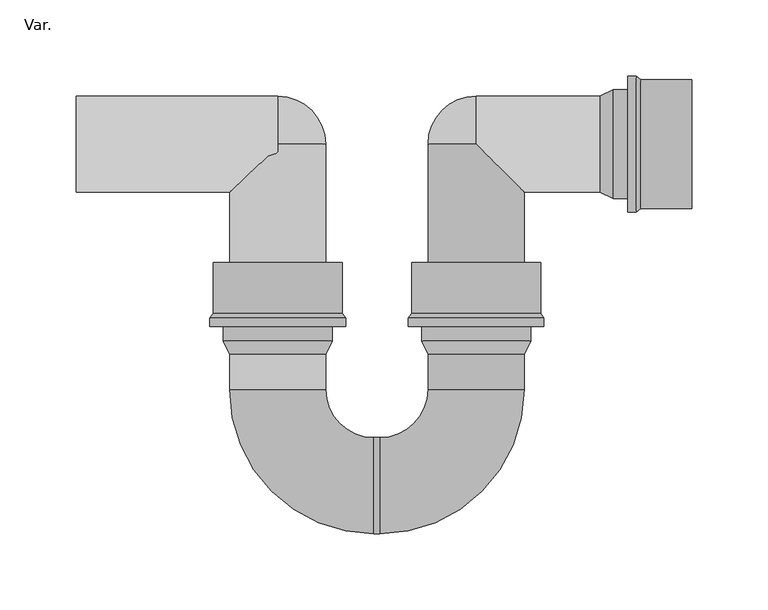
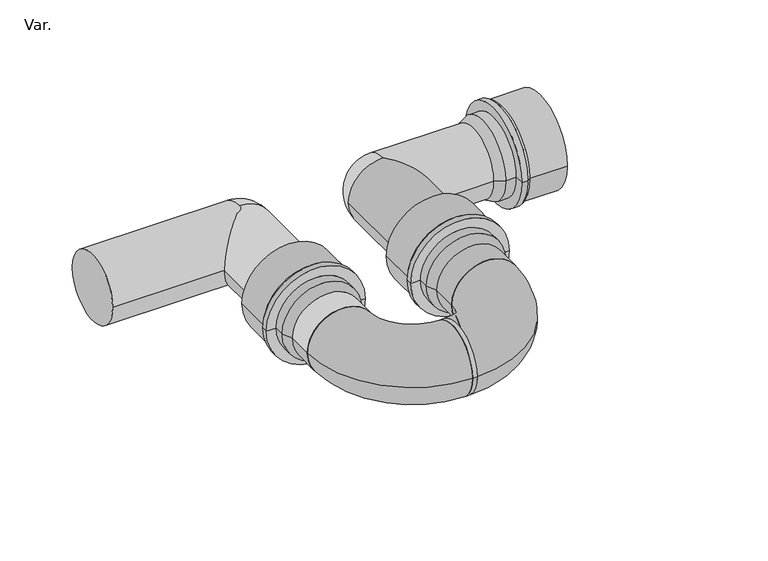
"""IFC4 building model written with IfcOpenShell, lengths in millimetres: pipe fitting geometry, PIF_HDPE u trap_Akatherm : Var.."""

from ifc_helpers import new_model, si_unit, point, frame, frame_2d, origin, origin_2d, place, context, project, spatial, polyline, circle_curve, ellipse_curve, trimmed, segment, composite_curve, outline, extrude, source, transform, mapped, element, save
from ifc_brep_helpers import plane_surface, cylinder_surface, revolved_surface, advanced_brep


def var_a00c3a62(model_context):
    return source(origin(), model_context, "Body", "SolidModel", [
        extrude(outline(composite_curve([segment(trimmed(circle_curve(frame_2d((-224.0, 0.0)), 31.5), [point((-255.5, 0.0))], [point((-192.5, 0.0))], False, "CARTESIAN"), True, "CONTINUOUS"), segment(trimmed(circle_curve(frame_2d((-224.0, 0.0)), 31.5), [point((-192.5, 0.0))], [point((-255.5, 0.0))], False, "CARTESIAN"), True, "CONTINUOUS")], self_intersect=False)), frame((-2.0, 0.0, 0.0), z_axis=(1.0, 0.0, 0.0), x_axis=(0.0, 1.0, 0.0)), (0.0, 0.0, 1.0), 4.0),
        extrude(outline(composite_curve([segment(trimmed(circle_curve(origin_2d(), 31.5), [point((31.5, 0.0))], [point((-31.5, 0.0))], False, "CARTESIAN"), True, "CONTINUOUS"), segment(trimmed(circle_curve(origin_2d(), 31.5), [point((-31.5, 0.0))], [point((31.5, 0.0))], False, "CARTESIAN"), True, "CONTINUOUS")], self_intersect=False)), frame((-197.0, 0.0, 0.0), z_axis=(1.0, 0.0, 0.0), x_axis=(0.0, 1.0, 0.0)), (0.0, 0.0, 1.0), 132.0),
        advanced_brep(
        [(-33.5, -161.0, 0.0), (-96.5, -161.0, 0.0), (-65.0, 0.0, -31.5), (-96.5, 0.0, 0.0), (-65.0, 0.0, 31.5), (-33.5, -138.0, 0.0), (-96.5, -138.0, 0.0), (-33.5, -77.7, 0.0), (-33.5, 0.0, 0.0), (-96.5, -77.7, 0.0), (-100.75, -129.0, 0.0), (-29.25, -129.0, 0.0), (-100.75, -119.7, 0.0), (-29.25, -119.7, 0.0), (-109.5, -119.7, 0.0), (-20.5, -119.7, 0.0), (-109.5, -114.1, 0.0), (-20.5, -114.1, 0.0), (-107.25, -111.0, 0.0), (-22.75, -111.0, 0.0), (-107.25, -77.7, 0.0), (-22.75, -77.7, 0.0)],
        [
            (0, 1, circle_curve(frame((-65.0, -161.0, 0.0), z_axis=(0.0, -1.0, 0.0), x_axis=(-1.0, 0.0, 0.0)), 31.5)),
            (1, 0, circle_curve(frame((-65.0, -161.0, 0.0), z_axis=(0.0, -1.0, 0.0), x_axis=(-1.0, 0.0, 0.0)), 31.5)),
            (2, 3, circle_curve(frame((-65.0, 0.0, 0.0), z_axis=(0.0, 1.0, 0.0), x_axis=(-1.0, 0.0, 0.0)), 31.5)),
            (3, 4, circle_curve(frame((-65.0, 0.0, 0.0), z_axis=(0.0, 1.0, 0.0), x_axis=(-1.0, 0.0, 0.0)), 31.5)),
            (4, 2),
            (0, 5),
            (5, 6, circle_curve(frame((-65.0, -138.0, 0.0), z_axis=(0.0, -1.0, 0.0), x_axis=(-1.0, 0.0, 0.0)), 31.5)),
            (6, 1),
            (7, 8),
            (8, 4, circle_curve(frame((-65.0, 0.0, 0.0), z_axis=(0.0, -1.0, 0.0), x_axis=(-1.0, 0.0, 0.0)), 31.5)),
            (3, 9),
            (9, 7, circle_curve(frame((-65.0, -77.7, 0.0), z_axis=(0.0, 1.0, 0.0), x_axis=(-1.0, 0.0, 0.0)), 31.5)),
            (6, 5, circle_curve(frame((-65.0, -138.0, 0.0), z_axis=(0.0, -1.0, 0.0), x_axis=(-1.0, 0.0, 0.0)), 31.5)),
            (7, 9, circle_curve(frame((-65.0, -77.7, 0.0), z_axis=(0.0, 1.0, 0.0), x_axis=(-1.0, 0.0, 0.0)), 31.5)),
            (2, 8, circle_curve(frame((-65.0, 0.0, 0.0), z_axis=(0.0, -1.0, 0.0), x_axis=(-1.0, 0.0, 0.0)), 31.5)),
            (10, 11, circle_curve(frame((-65.0, -129.0, 0.0), z_axis=(0.0, -1.0, 0.0), x_axis=(1.0, 0.0, 0.0)), 35.75)),
            (11, 5),
            (6, 10),
            (11, 10, circle_curve(frame((-65.0, -129.0, 0.0), z_axis=(0.0, -1.0, 0.0), x_axis=(1.0, 0.0, 0.0)), 35.75)),
            (10, 12),
            (12, 13, circle_curve(frame((-65.0, -119.7, 0.0), z_axis=(0.0, -1.0, 0.0), x_axis=(1.0, 0.0, 0.0)), 35.75)),
            (13, 11),
            (13, 12, circle_curve(frame((-65.0, -119.7, 0.0), z_axis=(0.0, -1.0, 0.0), x_axis=(1.0, 0.0, 0.0)), 35.75)),
            (12, 14),
            (14, 15, circle_curve(frame((-65.0, -119.7, 0.0), z_axis=(0.0, -1.0, 0.0), x_axis=(1.0, 0.0, 0.0)), 44.5)),
            (15, 13),
            (15, 14, circle_curve(frame((-65.0, -119.7, 0.0), z_axis=(0.0, -1.0, 0.0), x_axis=(1.0, 0.0, 0.0)), 44.5)),
            (14, 16),
            (16, 17, circle_curve(frame((-65.0, -114.1, 0.0), z_axis=(0.0, -1.0, 0.0), x_axis=(1.0, 0.0, 0.0)), 44.5)),
            (17, 15),
            (17, 16, circle_curve(frame((-65.0, -114.1, 0.0), z_axis=(0.0, -1.0, 0.0), x_axis=(1.0, 0.0, 0.0)), 44.5)),
            (16, 18),
            (18, 19, circle_curve(frame((-65.0, -111.0, 0.0), z_axis=(0.0, -1.0, 0.0), x_axis=(1.0, 0.0, 0.0)), 42.25)),
            (19, 17),
            (19, 18, circle_curve(frame((-65.0, -111.0, 0.0), z_axis=(0.0, -1.0, 0.0), x_axis=(1.0, 0.0, 0.0)), 42.25)),
            (18, 20),
            (20, 21, circle_curve(frame((-65.0, -77.7, 0.0), z_axis=(0.0, -1.0, 0.0), x_axis=(1.0, 0.0, 0.0)), 42.25)),
            (21, 19),
            (21, 20, circle_curve(frame((-65.0, -77.7, 0.0), z_axis=(0.0, -1.0, 0.0), x_axis=(1.0, 0.0, 0.0)), 42.25)),
            (20, 9),
            (7, 21),
            (4, 2, circle_curve(frame((-65.0, 0.0, 0.0), z_axis=(-1.0, 0.0, 0.0), x_axis=(0.0, 0.0, 1.0)), 31.5)),
        ],
        [
            plane_surface(frame((-65.0, -161.0, 0.0), z_axis=(0.0, -1.0, 0.0), x_axis=(0.0, 0.0, 1.0))),
            plane_surface(frame((-65.0, 0.0, 0.0), z_axis=(0.0, 1.0, 0.0), x_axis=(0.0, 0.0, 1.0))),
            cylinder_surface(frame((-65.0, -161.0, 0.0), z_axis=(0.0, -1.0, 0.0), x_axis=(-1.0, 0.0, 0.0)), 31.5),
            revolved_surface(polyline([(-33.5, -138.0, 0.0), (-29.25, -129.0, 0.0)]), (-65.0, -92.7, 0.0), (0.0, 1.0, 0.0)),
            cylinder_surface(frame((-65.0, -92.7, 0.0), z_axis=(0.0, 1.0, 0.0), x_axis=(1.0, 0.0, 0.0)), 35.75),
            plane_surface(frame((-65.0, -119.7, 0.0), z_axis=(0.0, -1.0, 0.0), x_axis=(1.0, 0.0, 0.0))),
            cylinder_surface(frame((-65.0, -92.7, 0.0), z_axis=(0.0, 1.0, 0.0), x_axis=(1.0, 0.0, 0.0)), 44.5),
            revolved_surface(polyline([(-20.5, -114.1, 0.0), (-22.75, -111.0, 0.0)]), (-65.0, -92.7, 0.0), (0.0, 1.0, 0.0)),
            cylinder_surface(frame((-65.0, -92.7, 0.0), z_axis=(0.0, 1.0, 0.0), x_axis=(1.0, 0.0, 0.0)), 42.25),
            plane_surface(frame((-65.0, -77.7, 0.0), z_axis=(0.0, 1.0, 0.0), x_axis=(1.0, 0.0, 0.0))),
            plane_surface(frame((-65.0, 0.0, -108.5), z_axis=(-1.0, 0.0, 0.0), x_axis=(0.0, 1.0, 0.0))),
            revolved_surface(trimmed(ellipse_curve(frame((-65.0, 0.0, 0.0), z_axis=(1.0, 0.0, 0.0), x_axis=(0.0, 0.0, 1.0)), 31.5, 31.5), [point((-65.0, 0.0, -31.5))], [point((-65.0, 0.0, 31.5))], True, "CARTESIAN"), (-65.0, 0.0, -108.5), (0.0, 0.0, 1.0)),
        ],
        [
            (0, [[1, 2]]),
            (1, [[3, 4, 5]]),
            (2, [[-1, 6, 7, 8]]),
            (2, [[9, 10, -4, 11, 12]]),
            (2, [[-2, -8, 13, -6]]),
            (2, [[-9, 14, -11, -3, 15]]),
            (3, [[16, 17, -13, 18]]),
            (3, [[-17, 19, -18, -7]]),
            (4, [[-16, 20, 21, 22]]),
            (4, [[-19, -22, 23, -20]]),
            (5, [[-21, 24, 25, 26]]),
            (5, [[-23, -26, 27, -24]]),
            (6, [[-25, 28, 29, 30]]),
            (6, [[-27, -30, 31, -28]]),
            (7, [[-29, 32, 33, 34]]),
            (7, [[-31, -34, 35, -32]]),
            (8, [[-33, 36, 37, 38]]),
            (8, [[-35, -38, 39, -36]]),
            (9, [[-37, 40, -14, 41]]),
            (9, [[-39, -41, -12, -40]]),
            (10, [[42, -5]]),
            (11, [[-42, -10, -15]]),
        ],
    ),
        advanced_brep(
        [(33.5, -161.0, 0.0), (96.5, -161.0, 0.0), (96.5, -138.0, 0.0), (33.5, -138.0, 0.0), (33.5, 0.0, 0.0), (33.5, -77.7, 0.0), (96.5, -77.7, 0.0), (96.5, -31.5, 0.0), (65.0, 0.0, 31.5), (65.0, 0.0, -31.5), (29.25, -129.0, 0.0), (100.75, -129.0, 0.0), (29.25, -119.7, 0.0), (100.75, -119.7, 0.0), (20.5, -119.7, 0.0), (109.5, -119.7, 0.0), (20.5, -114.1, 0.0), (109.5, -114.1, 0.0), (22.75, -111.0, 0.0), (107.25, -111.0, 0.0), (22.75, -77.7, 0.0), (107.25, -77.7, 0.0), (146.0, -31.5, 0.0), (146.0, 31.5, 0.0), (65.0, 31.5, 0.0), (206.3, -42.25, 0.0), (206.3, 42.25, 0.0), (206.3, 0.0, 0.0), (173.0, -42.25, 0.0), (173.0, 42.25, 0.0), (169.9, -44.5, 0.0), (169.9, 44.5, 0.0), (164.3, -44.5, 0.0), (164.3, 44.5, 0.0), (164.3, -35.75, 0.0), (164.3, 35.75, 0.0), (155.0, -35.75, 0.0), (155.0, 35.75, 0.0)],
        [
            (0, 1, circle_curve(frame((65.0, -161.0, 0.0), z_axis=(0.0, -1.0, 0.0), x_axis=(1.0, 0.0, 0.0)), 31.5)),
            (1, 0, circle_curve(frame((65.0, -161.0, 0.0), z_axis=(0.0, -1.0, 0.0), x_axis=(1.0, 0.0, 0.0)), 31.5)),
            (1, 2),
            (2, 3, circle_curve(frame((65.0, -138.0, 0.0), z_axis=(0.0, -1.0, 0.0), x_axis=(1.0, 0.0, 0.0)), 31.5)),
            (3, 0),
            (4, 5),
            (5, 6, circle_curve(frame((65.0, -77.7, 0.0), z_axis=(0.0, 1.0, 0.0), x_axis=(1.0, 0.0, 0.0)), 31.5)),
            (6, 7),
            (7, 8, ellipse_curve(frame((65.0, 0.0, 0.0), z_axis=(-0.7071067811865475, -0.7071067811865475, 0.0), x_axis=(-0.7071067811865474, 0.7071067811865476, 0.0)), 44.5477272, 31.5)),
            (8, 4, circle_curve(frame((65.0, 0.0, 0.0), z_axis=(0.0, -1.0, 0.0), x_axis=(1.0, 0.0, 0.0)), 31.5)),
            (3, 2, circle_curve(frame((65.0, -138.0, 0.0), z_axis=(0.0, -1.0, 0.0), x_axis=(1.0, 0.0, 0.0)), 31.5)),
            (4, 9, circle_curve(frame((65.0, 0.0, 0.0), z_axis=(0.0, -1.0, 0.0), x_axis=(1.0, 0.0, 0.0)), 31.5)),
            (9, 7, ellipse_curve(frame((65.0, 0.0, 0.0), z_axis=(-0.7071067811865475, -0.7071067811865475, 0.0), x_axis=(-0.7071067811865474, 0.7071067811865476, 0.0)), 44.5477272, 31.5)),
            (6, 5, circle_curve(frame((65.0, -77.7, 0.0), z_axis=(0.0, 1.0, 0.0), x_axis=(1.0, 0.0, 0.0)), 31.5)),
            (10, 11, circle_curve(frame((65.0, -129.0, 0.0), z_axis=(0.0, -1.0, 0.0), x_axis=(1.0, 0.0, 0.0)), 35.75)),
            (11, 2),
            (3, 10),
            (11, 10, circle_curve(frame((65.0, -129.0, 0.0), z_axis=(0.0, -1.0, 0.0), x_axis=(1.0, 0.0, 0.0)), 35.75)),
            (10, 12),
            (12, 13, circle_curve(frame((65.0, -119.7, 0.0), z_axis=(0.0, -1.0, 0.0), x_axis=(1.0, 0.0, 0.0)), 35.75)),
            (13, 11),
            (13, 12, circle_curve(frame((65.0, -119.7, 0.0), z_axis=(0.0, -1.0, 0.0), x_axis=(1.0, 0.0, 0.0)), 35.75)),
            (12, 14),
            (14, 15, circle_curve(frame((65.0, -119.7, 0.0), z_axis=(0.0, -1.0, 0.0), x_axis=(1.0, 0.0, 0.0)), 44.5)),
            (15, 13),
            (15, 14, circle_curve(frame((65.0, -119.7, 0.0), z_axis=(0.0, -1.0, 0.0), x_axis=(1.0, 0.0, 0.0)), 44.5)),
            (14, 16),
            (16, 17, circle_curve(frame((65.0, -114.1, 0.0), z_axis=(0.0, -1.0, 0.0), x_axis=(1.0, 0.0, 0.0)), 44.5)),
            (17, 15),
            (17, 16, circle_curve(frame((65.0, -114.1, 0.0), z_axis=(0.0, -1.0, 0.0), x_axis=(1.0, 0.0, 0.0)), 44.5)),
            (16, 18),
            (18, 19, circle_curve(frame((65.0, -111.0, 0.0), z_axis=(0.0, -1.0, 0.0), x_axis=(1.0, 0.0, 0.0)), 42.25)),
            (19, 17),
            (19, 18, circle_curve(frame((65.0, -111.0, 0.0), z_axis=(0.0, -1.0, 0.0), x_axis=(1.0, 0.0, 0.0)), 42.25)),
            (18, 20),
            (20, 21, circle_curve(frame((65.0, -77.7, 0.0), z_axis=(0.0, -1.0, 0.0), x_axis=(1.0, 0.0, 0.0)), 42.25)),
            (21, 19),
            (21, 20, circle_curve(frame((65.0, -77.7, 0.0), z_axis=(0.0, -1.0, 0.0), x_axis=(1.0, 0.0, 0.0)), 42.25)),
            (20, 5),
            (6, 21),
            (7, 22),
            (22, 23, circle_curve(frame((146.0, 0.0, 0.0), z_axis=(-1.0, 0.0, 0.0), x_axis=(0.0, -1.0, 0.0)), 31.5)),
            (23, 24),
            (24, 8, circle_curve(frame((65.0, 0.0, 0.0), z_axis=(1.0, 0.0, 0.0), x_axis=(0.0, -1.0, 0.0)), 31.5)),
            (9, 24, circle_curve(frame((65.0, 0.0, 0.0), z_axis=(1.0, 0.0, 0.0), x_axis=(0.0, -1.0, 0.0)), 31.5)),
            (23, 22, circle_curve(frame((146.0, 0.0, 0.0), z_axis=(-1.0, 0.0, 0.0), x_axis=(0.0, -1.0, 0.0)), 31.5)),
            (25, 26, circle_curve(frame((206.3, 0.0, 0.0), z_axis=(1.0, 0.0, 0.0), x_axis=(0.0, 1.0, 0.0)), 42.25)),
            (26, 27),
            (27, 25),
            (26, 25, circle_curve(frame((206.3, 0.0, 0.0), z_axis=(1.0, 0.0, 0.0), x_axis=(0.0, 1.0, 0.0)), 42.25)),
            (25, 28),
            (28, 29, circle_curve(frame((173.0, 0.0, 0.0), z_axis=(1.0, 0.0, 0.0), x_axis=(0.0, 1.0, 0.0)), 42.25)),
            (29, 26),
            (29, 28, circle_curve(frame((173.0, 0.0, 0.0), z_axis=(1.0, 0.0, 0.0), x_axis=(0.0, 1.0, 0.0)), 42.25)),
            (28, 30),
            (30, 31, circle_curve(frame((169.9, 0.0, 0.0), z_axis=(1.0, 0.0, 0.0), x_axis=(0.0, 1.0, 0.0)), 44.5)),
            (31, 29),
            (31, 30, circle_curve(frame((169.9, 0.0, 0.0), z_axis=(1.0, 0.0, 0.0), x_axis=(0.0, 1.0, 0.0)), 44.5)),
            (30, 32),
            (32, 33, circle_curve(frame((164.3, 0.0, 0.0), z_axis=(1.0, 0.0, 0.0), x_axis=(0.0, 1.0, 0.0)), 44.5)),
            (33, 31),
            (33, 32, circle_curve(frame((164.3, 0.0, 0.0), z_axis=(1.0, 0.0, 0.0), x_axis=(0.0, 1.0, 0.0)), 44.5)),
            (32, 34),
            (34, 35, circle_curve(frame((164.3, 0.0, 0.0), z_axis=(1.0, 0.0, 0.0), x_axis=(0.0, 1.0, 0.0)), 35.75)),
            (35, 33),
            (35, 34, circle_curve(frame((164.3, 0.0, 0.0), z_axis=(1.0, 0.0, 0.0), x_axis=(0.0, 1.0, 0.0)), 35.75)),
            (34, 36),
            (36, 37, circle_curve(frame((155.0, 0.0, 0.0), z_axis=(1.0, 0.0, 0.0), x_axis=(0.0, 1.0, 0.0)), 35.75)),
            (37, 35),
            (37, 36, circle_curve(frame((155.0, 0.0, 0.0), z_axis=(1.0, 0.0, 0.0), x_axis=(0.0, 1.0, 0.0)), 35.75)),
            (36, 22),
            (23, 37),
        ],
        [
            plane_surface(frame((65.0, -161.0, 0.0), z_axis=(0.0, -1.0, 0.0), x_axis=(0.0, 0.0, 1.0))),
            cylinder_surface(frame((65.0, 0.0, 0.0), z_axis=(0.0, 1.0, 0.0), x_axis=(1.0, 0.0, 0.0)), 31.5),
            revolved_surface(polyline([(96.5, -138.0, 0.0), (100.75, -129.0, 0.0)]), (65.0, -92.7, 0.0), (0.0, 1.0, 0.0)),
            cylinder_surface(frame((65.0, -92.7, 0.0), z_axis=(0.0, 1.0, 0.0), x_axis=(1.0, 0.0, 0.0)), 35.75),
            plane_surface(frame((65.0, -119.7, 0.0), z_axis=(0.0, -1.0, 0.0), x_axis=(1.0, 0.0, 0.0))),
            cylinder_surface(frame((65.0, -92.7, 0.0), z_axis=(0.0, 1.0, 0.0), x_axis=(1.0, 0.0, 0.0)), 44.5),
            revolved_surface(polyline([(109.5, -114.1, 0.0), (107.25, -111.0, 0.0)]), (65.0, -92.7, 0.0), (0.0, 1.0, 0.0)),
            cylinder_surface(frame((65.0, -92.7, 0.0), z_axis=(0.0, 1.0, 0.0), x_axis=(1.0, 0.0, 0.0)), 42.25),
            plane_surface(frame((65.0, -77.7, 0.0), z_axis=(0.0, 1.0, 0.0), x_axis=(1.0, 0.0, 0.0))),
            cylinder_surface(frame((154.0, 0.0, 0.0), z_axis=(1.0, 0.0, 0.0), x_axis=(0.0, -1.0, 0.0)), 31.5),
            plane_surface(frame((206.3, 0.0, 0.0), z_axis=(1.0, 0.0, 0.0), x_axis=(0.0, 1.0, 0.0))),
            cylinder_surface(frame((128.2615981, 0.0, 0.0), z_axis=(-1.0, 0.0, 0.0), x_axis=(0.0, 1.0, 0.0)), 42.25),
            revolved_surface(polyline([(173.0, 42.25, 0.0), (169.9, 44.5, 0.0)]), (128.2615981, 0.0, 0.0), (-1.0, 0.0, 0.0)),
            cylinder_surface(frame((128.2615981, 0.0, 0.0), z_axis=(-1.0, 0.0, 0.0), x_axis=(0.0, 1.0, 0.0)), 44.5),
            plane_surface(frame((164.3, 0.0, 0.0), z_axis=(-1.0, 0.0, 0.0), x_axis=(0.0, 1.0, 0.0))),
            cylinder_surface(frame((128.2615981, 0.0, 0.0), z_axis=(-1.0, 0.0, 0.0), x_axis=(0.0, 1.0, 0.0)), 35.75),
            revolved_surface(polyline([(155.0, 35.75, 0.0), (146.0, 31.5, 0.0)]), (128.2615981, 0.0, 0.0), (-1.0, 0.0, 0.0)),
            revolved_surface(trimmed(ellipse_curve(frame((65.0, 0.0, 0.0), z_axis=(-1.0, 0.0, 0.0), x_axis=(0.0, 0.0, 1.0)), 31.5, 31.5), [point((65.0, 0.0, 31.5))], [point((65.0, 0.0, -31.5))], True, "CARTESIAN"), (65.0, 0.0, -102.8827467), (0.0, 0.0, -1.0)),
        ],
        [
            (0, [[1, 2]]),
            (1, [[-2, 3, 4, 5]]),
            (1, [[6, 7, 8, 9, 10]]),
            (1, [[-1, -5, 11, -3]]),
            (1, [[-6, 12, 13, -8, 14]]),
            (2, [[15, 16, -11, 17]]),
            (2, [[-16, 18, -17, -4]]),
            (3, [[-15, 19, 20, 21]]),
            (3, [[-18, -21, 22, -19]]),
            (4, [[-20, 23, 24, 25]]),
            (4, [[-22, -25, 26, -23]]),
            (5, [[-24, 27, 28, 29]]),
            (5, [[-26, -29, 30, -27]]),
            (6, [[-28, 31, 32, 33]]),
            (6, [[-30, -33, 34, -31]]),
            (7, [[-32, 35, 36, 37]]),
            (7, [[-34, -37, 38, -35]]),
            (8, [[-36, 39, -14, 40]]),
            (8, [[-38, -40, -7, -39]]),
            (9, [[-9, 41, 42, 43, 44]]),
            (9, [[-13, 45, -43, 46, -41]]),
            (10, [[47, 48, 49]]),
            (10, [[-48, 50, -49]]),
            (11, [[-47, 51, 52, 53]]),
            (11, [[-50, -53, 54, -51]]),
            (12, [[-52, 55, 56, 57]]),
            (12, [[-54, -57, 58, -55]]),
            (13, [[-56, 59, 60, 61]]),
            (13, [[-58, -61, 62, -59]]),
            (14, [[-60, 63, 64, 65]]),
            (14, [[-62, -65, 66, -63]]),
            (15, [[-64, 67, 68, 69]]),
            (15, [[-66, -69, 70, -67]]),
            (16, [[-68, 71, -46, 72]]),
            (16, [[-70, -72, -42, -71]]),
            (17, [[-10, -44, -45, -12]]),
        ],
    ),
        advanced_brep(
        [(33.5, -161.0, 0.0), (96.5, -161.0, 0.0), (2.0, -192.5, 0.0), (2.0, -255.5, 0.0)],
        [
            (0, 1, circle_curve(frame((65.0, -161.0, 0.0), z_axis=(0.0, 1.0, 0.0), x_axis=(1.0, 0.0, 0.0)), 31.5)),
            (1, 0, circle_curve(frame((65.0, -161.0, 0.0), z_axis=(0.0, 1.0, 0.0), x_axis=(1.0, 0.0, 0.0)), 31.5)),
            (2, 3, circle_curve(frame((2.0, -224.0, 0.0), z_axis=(-1.0, 0.0, 0.0), x_axis=(0.0, -1.0, 0.0)), 31.5)),
            (3, 2, circle_curve(frame((2.0, -224.0, 0.0), z_axis=(-1.0, 0.0, 0.0), x_axis=(0.0, -1.0, 0.0)), 31.5)),
            (2, 0, circle_curve(frame((2.0, -161.0, 0.0), z_axis=(0.0, 0.0, 1.0), x_axis=(1.0, 0.0, 0.0)), 31.5)),
            (1, 3, circle_curve(frame((2.0, -161.0, 0.0), z_axis=(0.0, 0.0, -1.0), x_axis=(1.0, 0.0, 0.0)), 94.5)),
        ],
        [
            plane_surface(frame((65.0, -161.0, 0.0), z_axis=(0.0, 1.0, 0.0), x_axis=(0.0, 0.0, 1.0))),
            plane_surface(frame((2.0, -224.0, 0.0), z_axis=(-1.0, 0.0, 0.0), x_axis=(0.0, 0.0, 1.0))),
            revolved_surface(trimmed(ellipse_curve(frame((65.0, -161.0, 0.0), z_axis=(0.0, 1.0, 0.0), x_axis=(1.0, 0.0, 0.0)), 31.5, 31.5), [point((96.5, -161.0, 0.0))], [point((33.5, -161.0, 0.0))], True, "CARTESIAN"), (2.0, -161.0, 0.0), (0.0, 0.0, -1.0)),
            revolved_surface(trimmed(ellipse_curve(frame((65.0, -161.0, 0.0), z_axis=(0.0, 1.0, 0.0), x_axis=(1.0, 0.0, 0.0)), 31.5, 31.5), [point((33.5, -161.0, 0.0))], [point((96.5, -161.0, 0.0))], True, "CARTESIAN"), (2.0, -161.0, 0.0), (0.0, 0.0, -1.0)),
        ],
        [
            (0, [[1, 2]]),
            (1, [[3, 4]]),
            (2, [[5, -2, 6, -3]]),
            (3, [[-6, -1, -5, -4]]),
        ],
    ),
        advanced_brep(
        [(-96.5, -161.0, 0.0), (-33.5, -161.0, 0.0), (-2.0, -255.5, 0.0), (-2.0, -192.5, 0.0)],
        [
            (0, 1, circle_curve(frame((-65.0, -161.0, 0.0), z_axis=(0.0, 1.0, 0.0), x_axis=(1.0, 0.0, 0.0)), 31.5)),
            (1, 0, circle_curve(frame((-65.0, -161.0, 0.0), z_axis=(0.0, 1.0, 0.0), x_axis=(1.0, 0.0, 0.0)), 31.5)),
            (2, 3, circle_curve(frame((-2.0, -224.0, 0.0), z_axis=(1.0, 0.0, 0.0), x_axis=(0.0, 1.0, 0.0)), 31.5)),
            (3, 2, circle_curve(frame((-2.0, -224.0, 0.0), z_axis=(1.0, 0.0, 0.0), x_axis=(0.0, 1.0, 0.0)), 31.5)),
            (3, 1, circle_curve(frame((-2.0, -161.0, 0.0), z_axis=(0.0, 0.0, -1.0), x_axis=(-1.0, 0.0, 0.0)), 31.5)),
            (0, 2, circle_curve(frame((-2.0, -161.0, 0.0), z_axis=(0.0, 0.0, 1.0), x_axis=(-1.0, 0.0, 0.0)), 94.5)),
        ],
        [
            plane_surface(frame((-65.0, -161.0, 0.0), z_axis=(0.0, 1.0, 0.0), x_axis=(0.0, 0.0, 1.0))),
            plane_surface(frame((-2.0, -224.0, 0.0), z_axis=(1.0, 0.0, 0.0), x_axis=(0.0, 0.0, 1.0))),
            revolved_surface(trimmed(ellipse_curve(frame((-65.0, -161.0, 0.0), z_axis=(0.0, 1.0, 0.0), x_axis=(1.0, 0.0, 0.0)), 31.5, 31.5), [point((-96.5, -161.0, 0.0))], [point((-33.5, -161.0, 0.0))], True, "CARTESIAN"), (-2.0, -161.0, 0.0), (0.0, 0.0, 1.0)),
            revolved_surface(trimmed(ellipse_curve(frame((-65.0, -161.0, 0.0), z_axis=(0.0, 1.0, 0.0), x_axis=(1.0, 0.0, 0.0)), 31.5, 31.5), [point((-33.5, -161.0, 0.0))], [point((-96.5, -161.0, 0.0))], True, "CARTESIAN"), (-2.0, -161.0, 0.0), (0.0, 0.0, 1.0)),
        ],
        [
            (0, [[1, 2]]),
            (1, [[3, 4]]),
            (2, [[5, -1, 6, -4]]),
            (3, [[-6, -2, -5, -3]]),
        ],
    ),
    ])


if __name__ == "__main__":
    model = new_model("IFC4")
    model_context = context("Model", 3, world=origin())
    ifc_project = project(units=[si_unit("LENGTHUNIT", "METRE", prefix="MILLI")], contexts=[model_context])
    site = spatial("IfcSite", under=ifc_project)
    building = spatial("IfcBuilding", under=site)
    placement = place(None, origin())
    var_shape = var_a00c3a62(model_context)
    element("IfcPipeFitting", 1, ObjectType="PIF_HDPE u trap_Akatherm : Var.", at=placement, inside=building, context=model_context, shape_type="MappedRepresentation", body=[
        mapped(var_shape, transform((0.0, 0.0, 0.0), x_axis=(1.0, 0.0, 0.0), y_axis=(0.0, 1.0, 0.0), z_axis=(0.0, 0.0, 1.0))),
    ])
    save(model, "model.ifc")
